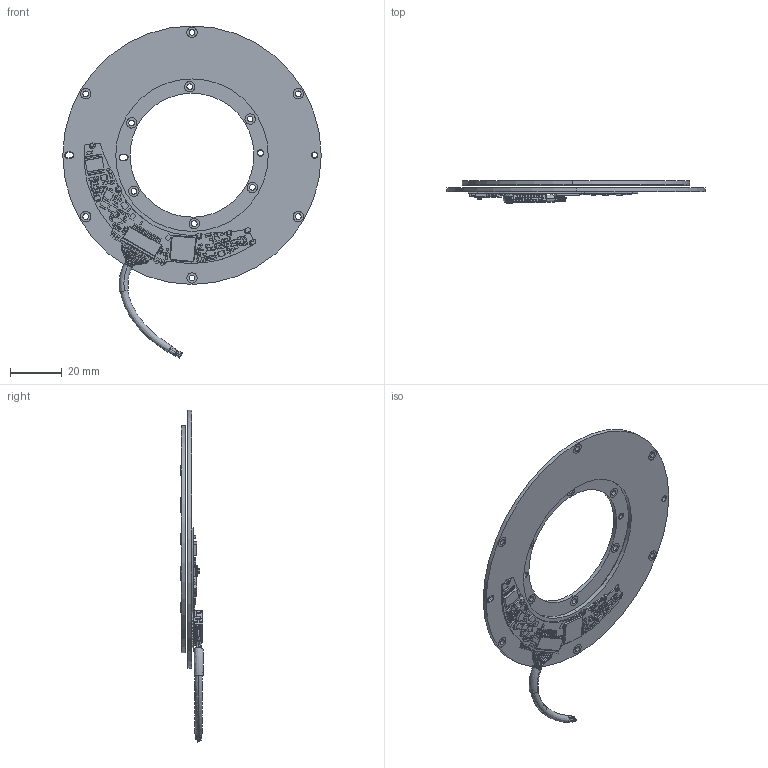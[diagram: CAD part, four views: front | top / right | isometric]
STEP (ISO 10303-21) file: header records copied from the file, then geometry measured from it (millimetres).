
FILE_DESCRIPTION (( 'STEP AP214' ), '1' );
FILE_NAME ('VLX-100.STEP', '2025-03-23T18:28:56', ( '' ), ( '' ), 'SwSTEP 2.0', 'SolidWorks 2022', '' );
FILE_SCHEMA (( 'AUTOMOTIVE_DESIGN' ));
Length unit declared in the file: millimetre
Products named in the file (8): DF13-10S-1.25C; VLX-60-QR Cable; PB-00548; DF13-10P-1.25H; VLX-100; KMR711NGULCLFS; PB-00456-00; PB-00547_VLX-100
Assembly tree (7 placements, depth 2):
  VLX-100
    PB-00547_VLX-100
    PB-00548
    PB-00456-00
    DF13-10P-1.25H
    DF13-10S-1.25C
    VLX-60-QR Cable
    KMR711NGULCLFS
Bounding box: 100 x 8.54 x 128.49 mm (x, y, z)
Volume: 15887.7 mm3; surface area: 24683.3 mm2
Topology: 121 solids, 121 shells, 5106 faces, 12571 edges, 8306 vertices
Faces by surface type: plane 3392, cylinder 1644, bspline 55, cone 15
Entity records: 203665 total; most frequent: CARTESIAN_POINT 31662, DIRECTION 25961, ORIENTED_EDGE 25142, EDGE_CURVE 12571, VECTOR 9083, LINE 9083, AXIS2_PLACEMENT_3D 8439, VERTEX_POINT 8306
